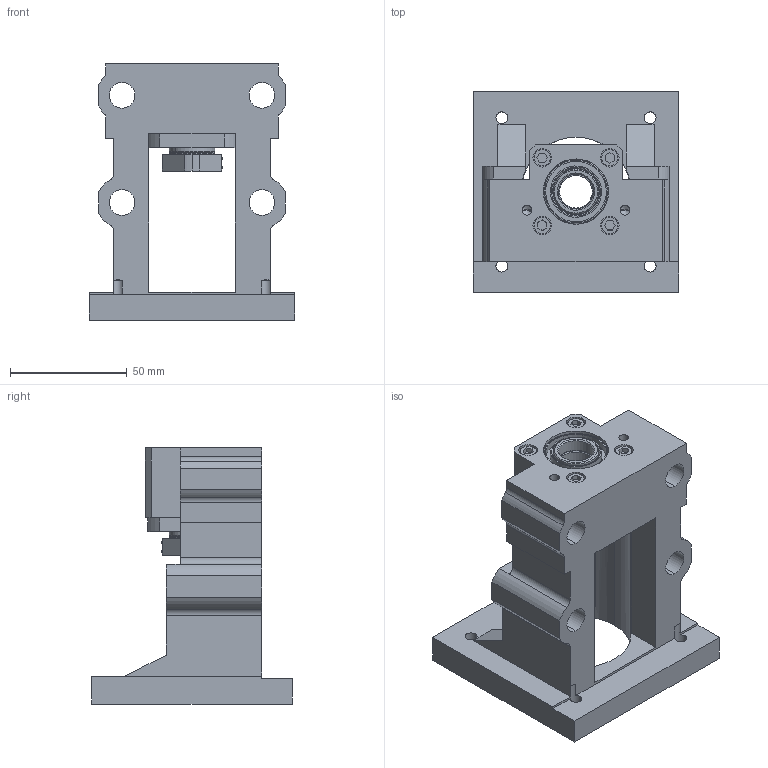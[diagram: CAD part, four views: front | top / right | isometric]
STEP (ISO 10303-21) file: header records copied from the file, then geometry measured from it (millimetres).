
FILE_DESCRIPTION (( 'STEP AP203' ), '1' );
FILE_NAME ('MBCE15M-EÂà³y¯Å.STEP', '2023-01-12T05:27:17', ( '' ), ( '' ), 'SwSTEP 2.0', 'SolidWorks 2018', '' );
FILE_SCHEMA (( 'CONFIG_CONTROL_DESIGN' ));
Length unit declared in the file: millimetre
Products named in the file (13): 7202軸承祖合件; BK系列密封圈_BK15密封圈; MBC15M 軸承蓋; M15鎖固螺帽_M15; MBCE15M-E轉造級; 螺絲_M4; EAFK15; 7202外圈; 7202內圈; 7202保持器; MBCE15M-E_網路下載圖; 7202鋼珠6.35; BK15套筒
Assembly tree (27 placements, depth 3):
  MBCE15M-E轉造級
    MBCE15M-E_網路下載圖
    BK15套筒
    BK系列密封圈_BK15密封圈  x2
    M15鎖固螺帽_M15
    螺絲_M4  x4
    EAFK15
    7202軸承祖合件  x2
      7202外圈
      7202內圈
      7202保持器
      7202鋼珠6.35
    MBC15M 軸承蓋
Bounding box: 88 x 86 x 110 mm (x, y, z)
Volume: 208801.8 mm3; surface area: 84636 mm2
Topology: 39 solids, 40 shells, 572 faces, 1426 edges, 902 vertices
Faces by surface type: cylinder 232, plane 146, torus 104, cone 46, sphere 44
Entity records: 14881 total; most frequent: CARTESIAN_POINT 3724, DIRECTION 2112, ORIENTED_EDGE 1848, EDGE_CURVE 924, AXIS2_PLACEMENT_3D 852, VERTEX_POINT 582, EDGE_LOOP 474, CIRCLE 444
